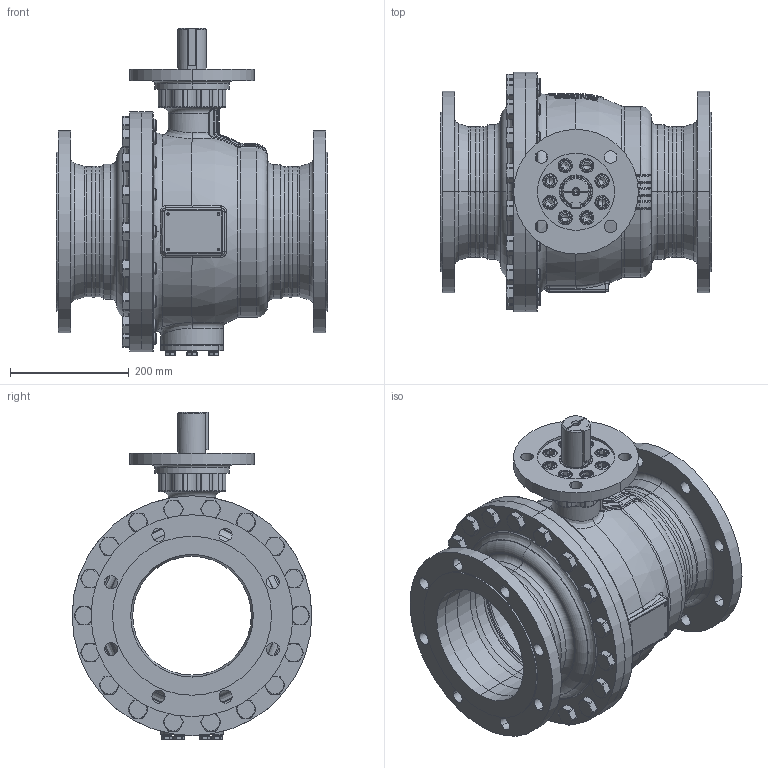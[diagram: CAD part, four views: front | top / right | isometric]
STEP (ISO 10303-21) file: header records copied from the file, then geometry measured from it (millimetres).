
FILE_DESCRIPTION((''),'2;1');
FILE_NAME('KHI-F_200_PN010-F16-P_SW0001','2026-02-05T13:19:17',('fischerkl'),('KLINGER'),'CREO PARAMETRIC BY PTC INC, 2023014','CREO PARAMETRIC BY PTC INC, 2023014','');
FILE_SCHEMA(('CONFIG_CONTROL_DESIGN'));
Products named in the file (1): KHI-F_200_PN010-F16-P_SW0001
Bounding box: 457 x 404 x 552.2 mm (x, y, z)
Volume: 12756525.1 mm3; surface area: 2268860.8 mm2
Topology: 1 solids, 4 shells, 2921 faces, 7284 edges, 4512 vertices
Faces by surface type: plane 1414, cylinder 704, cone 360, torus 305, bspline 108, sphere 30
Entity records: 120253 total; most frequent: CARTESIAN_POINT 51488, ORIENTED_EDGE 14516, DIRECTION 14250, EDGE_CURVE 7258, AXIS2_PLACEMENT_3D 5493, VERTEX_POINT 4512, VECTOR 3264, LINE 3264
